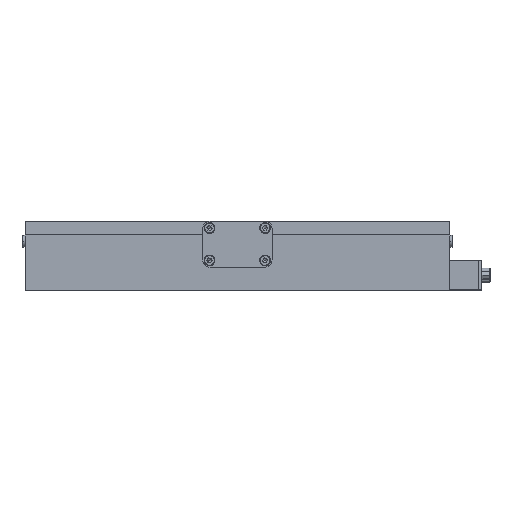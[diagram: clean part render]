
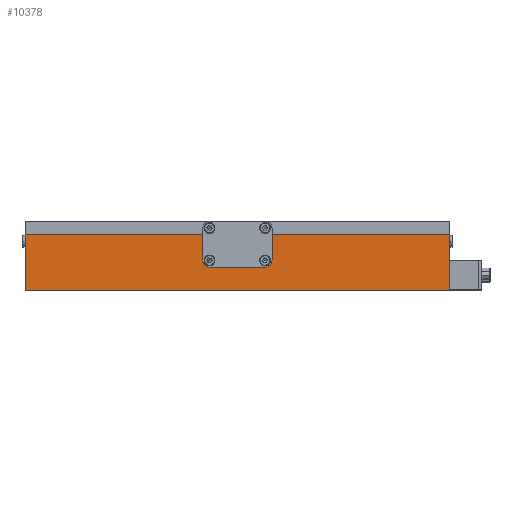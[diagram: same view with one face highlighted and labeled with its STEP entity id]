
A CAD part, top view. The second image highlights one B-rep face of the part: STEP entity #10378.
In plain terms, the highlighted planar face has unit normal (0, 0, 1).
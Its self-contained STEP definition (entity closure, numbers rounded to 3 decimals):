
#245 = EDGE_CURVE ( 'NONE', #6849, #48844, #44002, .T. ) ;
#567 = CARTESIAN_POINT ( 'NONE',  ( -16.35, 19.5, 65. ) ) ;
#1140 = EDGE_CURVE ( 'NONE', #16389, #10616, #1361, .T. ) ;
#1361 = LINE ( 'NONE', #12971, #7369 ) ;
#2000 = VERTEX_POINT ( 'NONE', #47595 ) ;
#2398 = CARTESIAN_POINT ( 'NONE',  ( 19.65, 19.5, 65. ) ) ;
#2513 = ORIENTED_EDGE ( 'NONE', *, *, #13121, .F. ) ;
#3928 = EDGE_CURVE ( 'NONE', #10616, #30897, #10764, .T. ) ;
#4785 = DIRECTION ( 'NONE',  ( 1., 0., 0. ) ) ;
#5687 = PLANE ( 'NONE',  #38074 ) ;
#6849 = VERTEX_POINT ( 'NONE', #567 ) ;
#7369 = VECTOR ( 'NONE', #32633, 1000. ) ;
#7893 = LINE ( 'NONE', #17772, #39565 ) ;
#8070 = CIRCLE ( 'NONE', #16729, 1.65 ) ;
#8080 = CARTESIAN_POINT ( 'NONE',  ( 137.5, 0., 65. ) ) ;
#8324 = ORIENTED_EDGE ( 'NONE', *, *, #1140, .T. ) ;
#9419 = CARTESIAN_POINT ( 'NONE',  ( -18., 19.5, 65. ) ) ;
#9804 = EDGE_LOOP ( 'NONE', ( #42703, #38043 ) ) ;
#10004 = DIRECTION ( 'NONE',  ( 0., 0., 1. ) ) ;
#10308 = EDGE_CURVE ( 'NONE', #48844, #6849, #23710, .T. ) ;
#10378 = ADVANCED_FACE ( 'NONE', ( #17627, #14584, #29211 ), #5687, .F. ) ;
#10616 = VERTEX_POINT ( 'NONE', #28743 ) ;
#10764 = LINE ( 'NONE', #28032, #21660 ) ;
#12971 = CARTESIAN_POINT ( 'NONE',  ( 137.5, 36., 65. ) ) ;
#13121 = EDGE_CURVE ( 'NONE', #2000, #13201, #32328, .T. ) ;
#13201 = VERTEX_POINT ( 'NONE', #2398 ) ;
#13980 = DIRECTION ( 'NONE',  ( -1., 0., 0. ) ) ;
#14097 = AXIS2_PLACEMENT_3D ( 'NONE', #30735, #37727, #30556 ) ;
#14584 = FACE_BOUND ( 'NONE', #37940, .T. ) ;
#15320 = ORIENTED_EDGE ( 'NONE', *, *, #39843, .F. ) ;
#16389 = VERTEX_POINT ( 'NONE', #25422 ) ;
#16729 = AXIS2_PLACEMENT_3D ( 'NONE', #47632, #24956, #4785 ) ;
#16730 = DIRECTION ( 'NONE',  ( 1., 0., 0. ) ) ;
#17410 = CARTESIAN_POINT ( 'NONE',  ( 137.5, 0., 65. ) ) ;
#17627 = FACE_BOUND ( 'NONE', #9804, .T. ) ;
#17772 = CARTESIAN_POINT ( 'NONE',  ( 137.5, 0., 65. ) ) ;
#20429 = VERTEX_POINT ( 'NONE', #8080 ) ;
#21660 = VECTOR ( 'NONE', #36231, 1000. ) ;
#21823 = VECTOR ( 'NONE', #31515, 1000. ) ;
#23710 = CIRCLE ( 'NONE', #28622, 1.65 ) ;
#24010 = ORIENTED_EDGE ( 'NONE', *, *, #42102, .F. ) ;
#24263 = EDGE_CURVE ( 'NONE', #13201, #2000, #8070, .T. ) ;
#24956 = DIRECTION ( 'NONE',  ( 0., 0., 1. ) ) ;
#25422 = CARTESIAN_POINT ( 'NONE',  ( 137.5, 36., 65. ) ) ;
#28032 = CARTESIAN_POINT ( 'NONE',  ( -137.5, 0., 65. ) ) ;
#28622 = AXIS2_PLACEMENT_3D ( 'NONE', #9419, #36666, #16730 ) ;
#28743 = CARTESIAN_POINT ( 'NONE',  ( -137.5, 36., 65. ) ) ;
#28954 = ORIENTED_EDGE ( 'NONE', *, *, #3928, .T. ) ;
#28983 = DIRECTION ( 'NONE',  ( 0., 0., -1. ) ) ;
#29078 = AXIS2_PLACEMENT_3D ( 'NONE', #33210, #10004, #37263 ) ;
#29211 = FACE_OUTER_BOUND ( 'NONE', #36684, .T. ) ;
#30556 = DIRECTION ( 'NONE',  ( 1., 0., 0. ) ) ;
#30735 = CARTESIAN_POINT ( 'NONE',  ( -18., 19.5, 65. ) ) ;
#30897 = VERTEX_POINT ( 'NONE', #39196 ) ;
#31057 = LINE ( 'NONE', #32043, #21823 ) ;
#31515 = DIRECTION ( 'NONE',  ( 0., -1., 0. ) ) ;
#32043 = CARTESIAN_POINT ( 'NONE',  ( 137.5, 0., 65. ) ) ;
#32328 = CIRCLE ( 'NONE', #29078, 1.65 ) ;
#32633 = DIRECTION ( 'NONE',  ( -1., 0., 0. ) ) ;
#33210 = CARTESIAN_POINT ( 'NONE',  ( 18., 19.5, 65. ) ) ;
#36231 = DIRECTION ( 'NONE',  ( 0., -1., 0. ) ) ;
#36666 = DIRECTION ( 'NONE',  ( 0., 0., 1. ) ) ;
#36684 = EDGE_LOOP ( 'NONE', ( #28954, #24010, #15320, #8324 ) ) ;
#37263 = DIRECTION ( 'NONE',  ( 1., 0., 0. ) ) ;
#37356 = DIRECTION ( 'NONE',  ( -1., 0., 0. ) ) ;
#37727 = DIRECTION ( 'NONE',  ( 0., 0., 1. ) ) ;
#37940 = EDGE_LOOP ( 'NONE', ( #38388, #2513 ) ) ;
#38043 = ORIENTED_EDGE ( 'NONE', *, *, #10308, .F. ) ;
#38074 = AXIS2_PLACEMENT_3D ( 'NONE', #17410, #28983, #13980 ) ;
#38388 = ORIENTED_EDGE ( 'NONE', *, *, #24263, .F. ) ;
#39196 = CARTESIAN_POINT ( 'NONE',  ( -137.5, 0., 65. ) ) ;
#39565 = VECTOR ( 'NONE', #37356, 1000. ) ;
#39843 = EDGE_CURVE ( 'NONE', #16389, #20429, #31057, .T. ) ;
#42102 = EDGE_CURVE ( 'NONE', #20429, #30897, #7893, .T. ) ;
#42703 = ORIENTED_EDGE ( 'NONE', *, *, #245, .F. ) ;
#44002 = CIRCLE ( 'NONE', #14097, 1.65 ) ;
#47595 = CARTESIAN_POINT ( 'NONE',  ( 16.35, 19.5, 65. ) ) ;
#47632 = CARTESIAN_POINT ( 'NONE',  ( 18., 19.5, 65. ) ) ;
#47860 = CARTESIAN_POINT ( 'NONE',  ( -19.65, 19.5, 65. ) ) ;
#48844 = VERTEX_POINT ( 'NONE', #47860 ) ;
